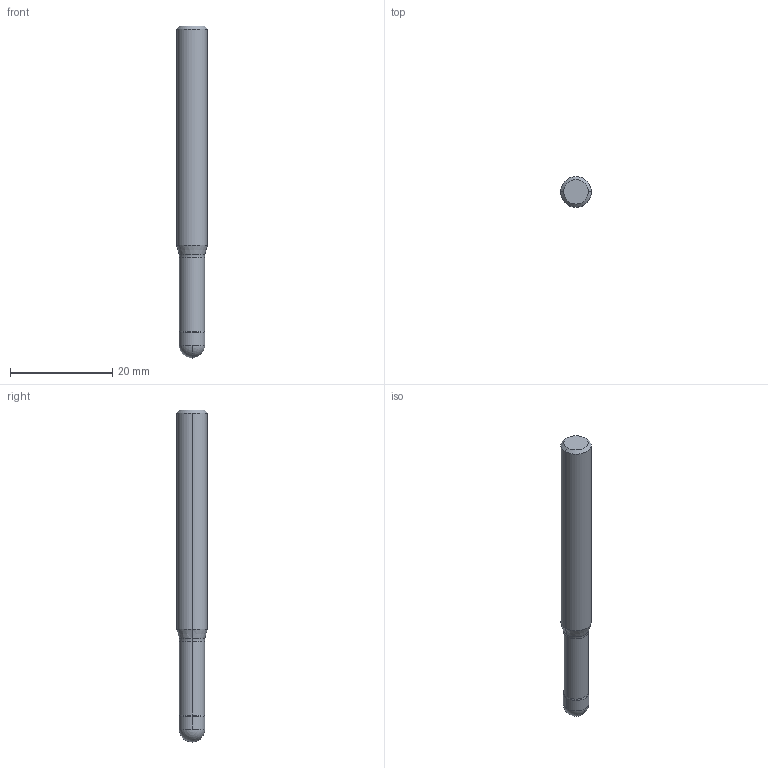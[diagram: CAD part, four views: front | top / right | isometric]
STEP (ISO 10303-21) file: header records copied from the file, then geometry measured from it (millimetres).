
FILE_DESCRIPTION (( 'STEP AP214' ), '1' );
FILE_NAME ('561.500.75_3D-model.step', '2022-02-18T17:00:25', ( '' ), ( '' ), 'SwSTEP 2.0', 'SolidWorks 2020', '' );
FILE_SCHEMA (( 'AUTOMOTIVE_DESIGN' ));
Length unit declared in the file: millimetre
Products named in the file (3): NOCUT-3D^Baugr23; 561.500.75_3D-model; CUT-3D^Baugr23
Assembly tree (2 placements, depth 2):
  561.500.75_3D-model
    CUT-3D^Baugr23
    NOCUT-3D^Baugr23
Bounding box: 6 x 6 x 65 mm (x, y, z)
Volume: 1624 mm3; surface area: 1215.9 mm2
Topology: 2 solids, 2 shells, 19 faces, 38 edges, 21 vertices
Faces by surface type: cylinder 6, cone 6, plane 3, sphere 2, torus 2
Entity records: 604 total; most frequent: DIRECTION 114, CARTESIAN_POINT 84, ORIENTED_EDGE 72, AXIS2_PLACEMENT_3D 51, EDGE_CURVE 36, CIRCLE 24, VERTEX_POINT 21, ADVANCED_FACE 19
